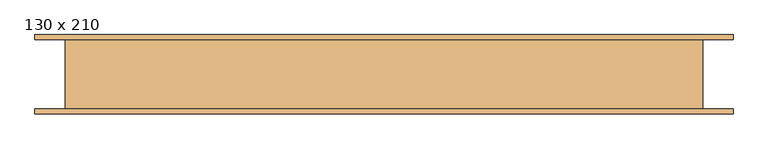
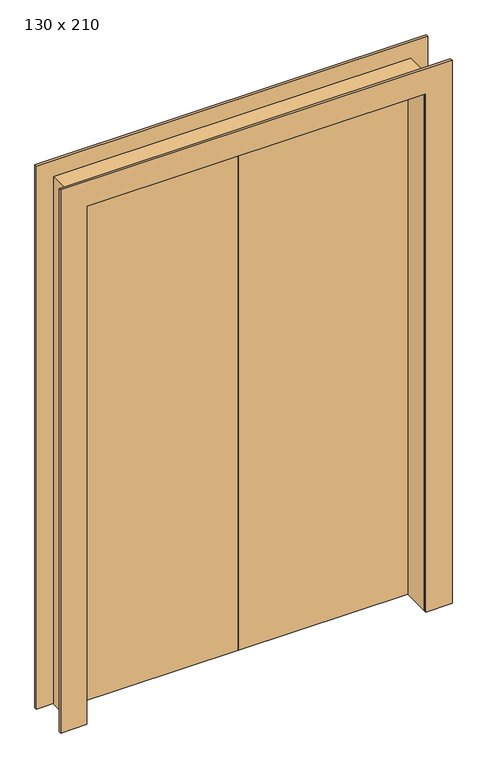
"""IFC4 building model written with IfcOpenShell, lengths in millimetres: door geometry, PORTA PIVOTANTE - 2 FOLHAS : 130 x 210."""

import ifcopenshell
import ifcopenshell.guid

model = None  # the IFC model being written
_history = None  # IfcOwnerHistory: only IFC2X3 demands one
_inside = {}  # id of a spatial element -> (the spatial element, [elements in it])
_under = {}  # id of a project, library or spatial element -> (it, [spatial elements below it])
_declared = {}  # id of a project -> (the project, [libraries it declares])
_typed = {}  # id of a type object -> (the type object, [elements of that type])
_made_of = {}  # id of a material, layer set ... -> (it, [elements and type objects made of it])


def new_model(schema):
    """Start an empty IFC model of exactly this schema.

    Asked for "IFC4X3", IfcOpenShell would pick the latest addendum, in which some entities
    have other attributes; the version numbers below select the first issue.
    IFC2X3 requires an IfcOwnerHistory on every rooted entity: one is made here for all.
    """
    global model, _history
    if schema == "IFC4X3":
        model = ifcopenshell.file(schema_version=(4, 3, 0, 0))
    else:
        model = ifcopenshell.file(schema=schema)
    _inside.clear()
    _under.clear()
    _declared.clear()
    _typed.clear()
    _made_of.clear()
    _history = None
    if model.schema == "IFC2X3":
        org = make("IfcOrganization", Name="unknown")
        user = make(
            "IfcPersonAndOrganization",
            ThePerson=make("IfcPerson", FamilyName="unknown"),
            TheOrganization=org,
        )
        app = make(
            "IfcApplication",
            ApplicationDeveloper=org,
            Version="unknown",
            ApplicationFullName="unknown",
            ApplicationIdentifier="unknown",
        )
        _history = make(
            "IfcOwnerHistory",
            OwningUser=user,
            OwningApplication=app,
            ChangeAction="ADDED",
            CreationDate=0,
        )
    return model


def make(cls, **values):
    """One entity of the class cls with the attributes given. An attribute that is None is left unset."""
    return model.create_entity(
        cls, **{name: value for name, value in values.items() if value is not None}
    )


def rooted(cls, **values):
    """An entity with a GlobalId (a new one), such as an element, a storey or a relation."""
    return make(cls, GlobalId=ifcopenshell.guid.new(), OwnerHistory=_history, **values)


def si_unit(unit_type, name, prefix=None):
    """IfcSIUnit, for example si_unit("LENGTHUNIT", "METRE", prefix="MILLI")."""
    return make("IfcSIUnit", UnitType=unit_type, Prefix=prefix, Name=name)


def assignment(units):
    """IfcUnitAssignment: the units of a project."""
    return None if units is None else make("IfcUnitAssignment", Units=units)


def point(xyz):
    """IfcCartesianPoint."""
    return None if xyz is None else make("IfcCartesianPoint", Coordinates=xyz)


def direction(xyz):
    """IfcDirection."""
    return None if xyz is None else make("IfcDirection", DirectionRatios=xyz)


def frame(location, z_axis=None, x_axis=None):
    """IfcAxis2Placement3D, a coordinate frame: its origin and axes. An axis left out is left unset."""
    return make(
        "IfcAxis2Placement3D",
        Location=point(location),
        Axis=direction(z_axis),
        RefDirection=direction(x_axis),
    )


def origin():
    """The frame at (0, 0, 0) with its axes left unset."""
    return frame((0.0, 0.0, 0.0))


def origin_with_axes():
    """The frame at (0, 0, 0) with the z axis (0, 0, 1) and the x axis (1, 0, 0) written out."""
    return frame((0.0, 0.0, 0.0), z_axis=(0.0, 0.0, 1.0), x_axis=(1.0, 0.0, 0.0))


def place(relative_to, where):
    """IfcLocalPlacement: puts the frame where relative to a parent placement (None: the world)."""
    return make(
        "IfcLocalPlacement", PlacementRelTo=relative_to, RelativePlacement=where
    )


def context(
    kind, dimensions, precision=None, world=None, true_north=None, identifier=None
):
    """IfcGeometricRepresentationContext, for example the 3D "Model" context."""
    return make(
        "IfcGeometricRepresentationContext",
        ContextIdentifier=identifier,
        ContextType=kind,
        CoordinateSpaceDimension=dimensions,
        Precision=precision,
        WorldCoordinateSystem=world,
        TrueNorth=true_north,
    )


def project(units=None, contexts=None):
    """IfcProject with its units and contexts."""
    return rooted(
        "IfcProject",
        Name="project",
        RepresentationContexts=contexts,
        UnitsInContext=assignment(units),
    )


def spatial(cls, under=None, at=None, **own):
    """A site, building, storey or space (cls), placed at a placement, below another one or the project."""
    s = rooted(cls, ObjectPlacement=at, **own)
    if under is not None:
        _under.setdefault(under.id(), (under, []))[1].append(s)
    return s


def polyline(points):
    """IfcPolyline through the points."""
    return make("IfcPolyline", Points=[point(p) for p in points])


def outline(outer, holes=None, kind="AREA"):
    """IfcArbitraryClosedProfileDef: a profile drawn as a closed curve; with holes, ...WithVoids."""
    if holes is None:
        return make("IfcArbitraryClosedProfileDef", ProfileType=kind, OuterCurve=outer)
    return make(
        "IfcArbitraryProfileDefWithVoids",
        ProfileType=kind,
        OuterCurve=outer,
        InnerCurves=holes,
    )


def extrude(swept, where, along, depth):
    """IfcExtrudedAreaSolid: the profile swept, set in the frame where, extruded along a direction by depth."""
    return make(
        "IfcExtrudedAreaSolid",
        SweptArea=swept,
        Position=where,
        ExtrudedDirection=direction(along),
        Depth=depth,
    )


def shape(context_of_items, identifier, shape_type, items):
    """IfcShapeRepresentation: the items that make up one representation, for example the "Body"."""
    return make(
        "IfcShapeRepresentation",
        ContextOfItems=context_of_items,
        RepresentationIdentifier=identifier,
        RepresentationType=shape_type,
        Items=items,
    )


def source(mapping_origin, context_of_items, identifier, shape_type, items):
    """IfcRepresentationMap: a shape defined once, which mapped items show again and again."""
    return make(
        "IfcRepresentationMap",
        MappingOrigin=mapping_origin,
        MappedRepresentation=shape(context_of_items, identifier, shape_type, items),
    )


def transform(
    local_origin,
    x_axis=None,
    y_axis=None,
    z_axis=None,
    scale=None,
    scale2=None,
    scale3=None,
    uniform=True,
):
    """IfcCartesianTransformationOperator3D, or its non-uniform kind. x_axis, y_axis, z_axis: its Axis1, 2, 3."""
    if uniform:
        return make(
            "IfcCartesianTransformationOperator3D",
            Axis1=direction(x_axis),
            Axis2=direction(y_axis),
            LocalOrigin=point(local_origin),
            Scale=scale,
            Axis3=direction(z_axis),
        )
    return make(
        "IfcCartesianTransformationOperator3DnonUniform",
        Axis1=direction(x_axis),
        Axis2=direction(y_axis),
        LocalOrigin=point(local_origin),
        Scale=scale,
        Axis3=direction(z_axis),
        Scale2=scale2,
        Scale3=scale3,
    )


def mapped(mapping_source, mapping_target):
    """IfcMappedItem: shows the shape of a source again, moved by a transform."""
    return make(
        "IfcMappedItem", MappingSource=mapping_source, MappingTarget=mapping_target
    )


def made_of(thing, what):
    """Note that an element or type object is made of a material, layer set ...; save() writes the relation."""
    if what is not None:
        _made_of.setdefault(what.id(), (what, []))[1].append(thing)
    return thing


def element(
    cls,
    number,
    at=None,
    inside=None,
    cuts=None,
    type_object=None,
    material=None,
    context=None,
    identifier="Body",
    shape_type=None,
    held_by="IfcProductDefinitionShape",
    body=None,
    shapes=None,
    **own,
):
    """One element of the class cls, such as IfcWall. Its Tag is "e" and its number.

    at: its placement. inside: the storey or other place that contains it. cuts: it is an
    opening in that element (IfcRelVoidsElement). A single representation is given by context,
    identifier, shape_type and body (its items); several are given by shapes. held_by: the class
    of the entity that holds the representations. save() writes the other relations.
    """
    e = rooted(cls, Tag="e%d" % number, ObjectPlacement=at, **own)
    if body is not None:
        shapes = [shape(context, identifier, shape_type, body)]
    if shapes is not None:
        e.Representation = make(held_by, Representations=shapes)
    if inside is not None:
        _inside.setdefault(inside.id(), (inside, []))[1].append(e)
    if cuts is not None:
        rooted(
            "IfcRelVoidsElement", RelatingBuildingElement=cuts, RelatedOpeningElement=e
        )
    if type_object is not None:
        _typed.setdefault(type_object.id(), (type_object, []))[1].append(e)
    return made_of(e, material)


def aggregate(whole, parts):
    """IfcRelAggregates: a whole, such as a stair, and the parts it consists of."""
    return rooted("IfcRelAggregates", RelatingObject=whole, RelatedObjects=parts)


def save(model, path):
    """Write the relations noted so far, then the file.

    IfcRelAggregates (storeys below a building ...), IfcRelContainedInSpatialStructure (elements
    in a storey), IfcRelDefinesByType, IfcRelAssociatesMaterial and IfcRelDeclares: one each for
    every whole, place, type object, material and project.
    """
    for whole, parts in _under.values():
        aggregate(whole, parts)
    for where, things in _inside.values():
        rooted(
            "IfcRelContainedInSpatialStructure",
            RelatedElements=things,
            RelatingStructure=where,
        )
    for kind, things in _typed.values():
        rooted("IfcRelDefinesByType", RelatedObjects=things, RelatingType=kind)
    for what, things in _made_of.values():
        rooted("IfcRelAssociatesMaterial", RelatedObjects=things, RelatingMaterial=what)
    for by, libraries in _declared.values():
        rooted("IfcRelDeclares", RelatingContext=by, RelatedDefinitions=libraries)
    model.write(path)


def door_130_x_210_5c5bd6b0(model_context):
    return source(origin(), model_context, "Body", "SweptSolid", [
        extrude(outline(polyline([(60.0, 75.0), (710.0, 75.0), (710.0, 35.0), (60.0, 35.0), (60.0, 75.0)])), origin_with_axes(), (0.0, 0.0, 1.0), 2100.0),
        extrude(outline(polyline([(60.0, 75.0), (60.0, 35.0), (-590.0, 35.0), (-590.0, 75.0), (60.0, 75.0)])), origin_with_axes(), (0.0, 0.0, 1.0), 2100.0),
        extrude(outline(polyline([(2100.0, 710.0), (0.0, 710.0), (0.0, 810.0), (2200.0, 810.0), (2200.0, -690.0), (0.0, -690.0), (0.0, -590.0), (2100.0, -590.0), (2100.0, 710.0)])), frame((0.0, -85.0, 0.0), z_axis=(0.0, 1.0, 0.0), x_axis=(0.0, 0.0, 1.0)), (0.0, 0.0, 1.0), 10.0),
        extrude(outline(polyline([(2100.0, -590.0), (2100.0, 710.0), (0.0, 710.0), (0.0, 810.0), (2200.0, 810.0), (2200.0, -690.0), (0.0, -690.0), (0.0, -590.0), (2100.0, -590.0)])), frame((0.0, 75.0, 0.0), z_axis=(0.0, 1.0, 0.0), x_axis=(0.0, 0.0, 1.0)), (0.0, 0.0, 1.0), 10.0),
        extrude(outline(polyline([(0.0, -590.0), (2100.0, -590.0), (2100.0, 710.0), (0.0, 710.0), (0.0, 745.0), (2135.0, 745.0), (2135.0, -625.0), (0.0, -625.0), (0.0, -590.0)])), frame((0.0, -75.0, 0.0), z_axis=(0.0, 1.0, 0.0), x_axis=(0.0, 0.0, 1.0)), (0.0, 0.0, 1.0), 150.0),
    ])


if __name__ == "__main__":
    model = new_model("IFC4")
    model_context = context("Model", 3, world=origin())
    ifc_project = project(units=[si_unit("LENGTHUNIT", "METRE", prefix="MILLI")], contexts=[model_context])
    site = spatial("IfcSite", under=ifc_project)
    building = spatial("IfcBuilding", under=site)
    placement = place(None, origin())
    door_130_x_210_shape = door_130_x_210_5c5bd6b0(model_context)
    element("IfcDoor", 1, ObjectType="PORTA PIVOTANTE - 2 FOLHAS : 130 x 210", at=placement, inside=building, context=model_context, shape_type="MappedRepresentation", body=[
        mapped(door_130_x_210_shape, transform((0.0, 0.0, 0.0), x_axis=(1.0, 0.0, 0.0), y_axis=(0.0, 1.0, 0.0), z_axis=(0.0, 0.0, 1.0))),
    ])
    save(model, "model.ifc")
